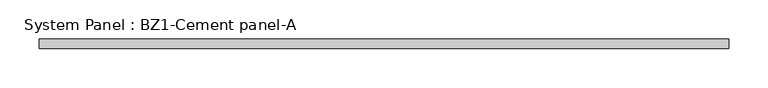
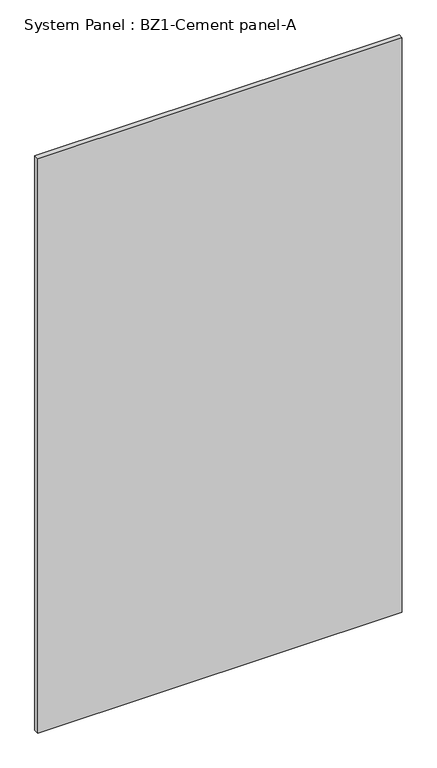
"""IFC4 building model written with IfcOpenShell, lengths in millimetres: plate geometry, System Panel : BZ1-Cement panel-A."""

from ifc_helpers import new_model, si_unit, origin, origin_with_axes, place, context, project, spatial, polyline, outline, extrude, source, transform, mapped, element, save


def system_panel_bz1_cement_panel_a_8a756caf(model_context):
    return source(origin(), model_context, "Body", "SweptSolid", [
        extrude(outline(polyline([(437.4291095, -2.0), (-437.4291095, -2.0), (-437.4291095, 10.0), (437.4291095, 10.0), (437.4291095, -2.0)])), origin_with_axes(), (0.0, 0.0, 1.0), 1457.28125),
    ])


if __name__ == "__main__":
    model = new_model("IFC4")
    model_context = context("Model", 3, world=origin())
    ifc_project = project(units=[si_unit("LENGTHUNIT", "METRE", prefix="MILLI")], contexts=[model_context])
    site = spatial("IfcSite", under=ifc_project)
    building = spatial("IfcBuilding", under=site)
    placement = place(None, origin())
    system_panel_bz1_cement_panel_a_shape = system_panel_bz1_cement_panel_a_8a756caf(model_context)
    element("IfcPlate", 1, ObjectType="System Panel : BZ1-Cement panel-A", at=placement, inside=building, context=model_context, shape_type="MappedRepresentation", body=[
        mapped(system_panel_bz1_cement_panel_a_shape, transform((0.0, 0.0, 0.0), x_axis=(1.0, 0.0, 0.0), y_axis=(0.0, 1.0, 0.0), z_axis=(0.0, 0.0, 1.0))),
    ])
    save(model, "model.ifc")
